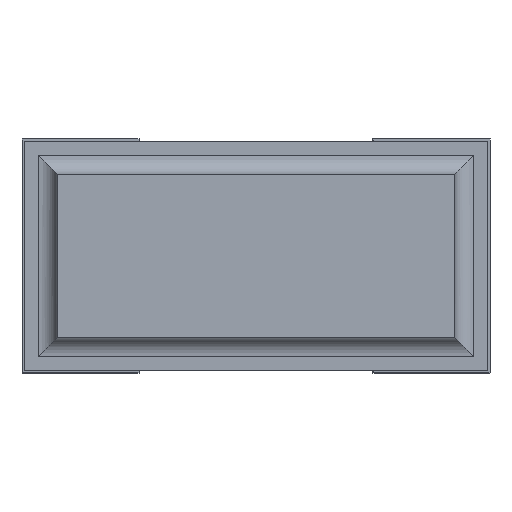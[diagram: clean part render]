
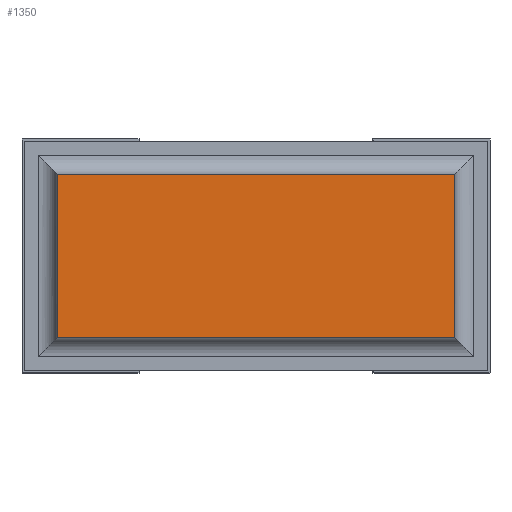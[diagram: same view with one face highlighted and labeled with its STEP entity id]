
A CAD part, front view. The second image highlights one B-rep face of the part: STEP entity #1350.
In plain terms, the highlighted planar face has unit normal (0, -1, 0).
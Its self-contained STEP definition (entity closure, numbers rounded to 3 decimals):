
#44=PLANE('',#1470);
#122=FACE_OUTER_BOUND('',#207,.T.);
#207=EDGE_LOOP('',(#1057,#1058,#1059,#1060));
#305=LINE('',#2013,#477);
#313=LINE('',#2036,#485);
#321=LINE('',#2049,#493);
#322=LINE('',#2051,#494);
#477=VECTOR('',#1641,10.);
#485=VECTOR('',#1659,10.);
#493=VECTOR('',#1673,10.);
#494=VECTOR('',#1676,10.);
#657=VERTEX_POINT('',#2009);
#658=VERTEX_POINT('',#2011);
#667=VERTEX_POINT('',#2033);
#668=VERTEX_POINT('',#2035);
#797=EDGE_CURVE('',#657,#658,#305,.T.);
#807=EDGE_CURVE('',#667,#668,#313,.T.);
#815=EDGE_CURVE('',#657,#667,#321,.T.);
#816=EDGE_CURVE('',#668,#658,#322,.T.);
#1057=ORIENTED_EDGE('',*,*,#807,.F.);
#1058=ORIENTED_EDGE('',*,*,#815,.F.);
#1059=ORIENTED_EDGE('',*,*,#797,.T.);
#1060=ORIENTED_EDGE('',*,*,#816,.F.);
#1350=ADVANCED_FACE('',(#122),#44,.T.);
#1470=AXIS2_PLACEMENT_3D('',#2050,#1674,#1675);
#1641=DIRECTION('',(0.,0.,-1.));
#1659=DIRECTION('',(0.,0.,-1.));
#1673=DIRECTION('',(1.,0.,0.));
#1674=DIRECTION('center_axis',(0.,-1.,0.));
#1675=DIRECTION('ref_axis',(0.,0.,-1.));
#1676=DIRECTION('',(-1.,0.,0.));
#2009=CARTESIAN_POINT('',(0.075,0.,0.425));
#2011=CARTESIAN_POINT('',(0.075,0.,0.075));
#2013=CARTESIAN_POINT('',(0.075,0.,0.425));
#2033=CARTESIAN_POINT('',(0.925,0.,0.425));
#2035=CARTESIAN_POINT('',(0.925,0.,0.075));
#2036=CARTESIAN_POINT('',(0.925,0.,0.425));
#2049=CARTESIAN_POINT('',(0.075,0.,0.425));
#2050=CARTESIAN_POINT('Origin',(0.926,0.,
0.25));
#2051=CARTESIAN_POINT('',(0.925,0.,0.075));
